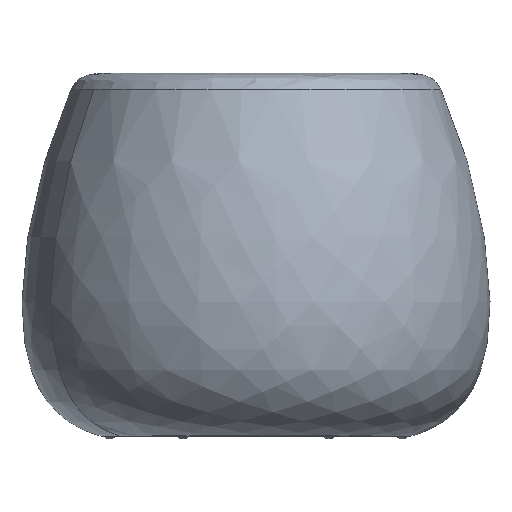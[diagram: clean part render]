
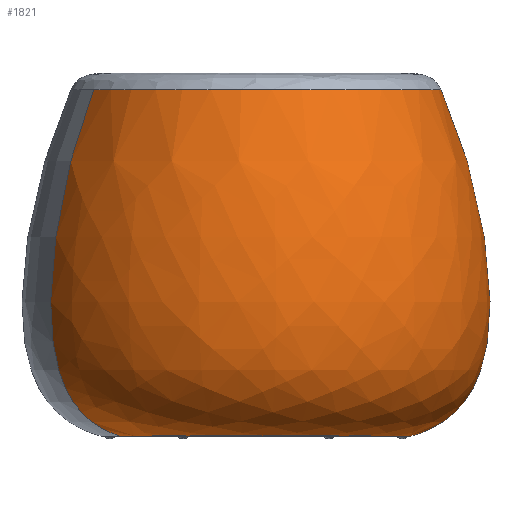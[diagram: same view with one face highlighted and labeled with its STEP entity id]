
A CAD part, left-side view. The second image highlights one B-rep face of the part: STEP entity #1821.
In plain terms, the highlighted face is a revolution surface.
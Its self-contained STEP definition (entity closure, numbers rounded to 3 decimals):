
#698=CARTESIAN_POINT('Vertex',(0.,-170.8,0.206)) ;
#701=CARTESIAN_POINT('Axis2P3D Location',(0.,0.,0.206)) ;
#705=CARTESIAN_POINT('Vertex',(-81.886,149.891,0.206)) ;
#1734=CARTESIAN_POINT('Control Point',(0.,-203.8,382.042)) ;
#1735=CARTESIAN_POINT('Control Point',(0.,-209.628,369.379)) ;
#1736=CARTESIAN_POINT('Control Point',(0.,-215.225,355.883)) ;
#1737=CARTESIAN_POINT('Control Point',(0.,-220.588,341.56)) ;
#1738=CARTESIAN_POINT('Control Point',(0.,-246.639,264.508)) ;
#1739=CARTESIAN_POINT('Control Point',(0.,-264.581,169.407)) ;
#1740=CARTESIAN_POINT('Control Point',(0.,-269.391,88.686)) ;
#1741=CARTESIAN_POINT('Control Point',(0.,-244.509,29.882)) ;
#1742=CARTESIAN_POINT('Control Point',(0.,-185.415,4.75)) ;
#1743=CARTESIAN_POINT('Control Point',(0.,-180.74,3.041)) ;
#1744=CARTESIAN_POINT('Control Point',(0.,-175.869,1.526)) ;
#1745=CARTESIAN_POINT('Control Point',(0.,-170.8,0.206)) ;
#1746=CARTESIAN_POINT('Vertex',(0.,-203.8,382.042)) ;
#1778=CARTESIAN_POINT('Control Point',(0.,203.8,382.042)) ;
#1779=CARTESIAN_POINT('Control Point',(0.,209.628,369.379)) ;
#1780=CARTESIAN_POINT('Control Point',(0.,215.225,355.883)) ;
#1781=CARTESIAN_POINT('Control Point',(0.,220.588,341.56)) ;
#1782=CARTESIAN_POINT('Control Point',(0.,246.639,264.508)) ;
#1783=CARTESIAN_POINT('Control Point',(0.,264.581,169.407)) ;
#1784=CARTESIAN_POINT('Control Point',(0.,269.391,88.686)) ;
#1785=CARTESIAN_POINT('Control Point',(0.,244.509,29.882)) ;
#1786=CARTESIAN_POINT('Control Point',(0.,185.415,4.75)) ;
#1787=CARTESIAN_POINT('Control Point',(0.,180.74,3.041)) ;
#1788=CARTESIAN_POINT('Control Point',(0.,175.869,1.526)) ;
#1789=CARTESIAN_POINT('Control Point',(0.,170.8,0.206)) ;
#1790=CARTESIAN_POINT('Axis1P Location',(0.,0.,217.5)) ;
#1794=CARTESIAN_POINT('Axis2P3D Location',(0.,0.,382.042)) ;
#1798=CARTESIAN_POINT('Vertex',(-97.707,178.851,382.042)) ;
#1802=CARTESIAN_POINT('Control Point',(-97.707,178.851,382.042)) ;
#1803=CARTESIAN_POINT('Control Point',(-100.501,183.966,369.379)) ;
#1804=CARTESIAN_POINT('Control Point',(-103.184,188.878,355.883)) ;
#1805=CARTESIAN_POINT('Control Point',(-105.755,193.584,341.56)) ;
#1806=CARTESIAN_POINT('Control Point',(-118.245,216.446,264.508)) ;
#1807=CARTESIAN_POINT('Control Point',(-126.847,232.192,169.407)) ;
#1808=CARTESIAN_POINT('Control Point',(-129.153,236.413,88.686)) ;
#1809=CARTESIAN_POINT('Control Point',(-117.224,214.577,29.882)) ;
#1810=CARTESIAN_POINT('Control Point',(-88.893,162.717,4.75)) ;
#1811=CARTESIAN_POINT('Control Point',(-86.652,158.615,3.041)) ;
#1812=CARTESIAN_POINT('Control Point',(-84.316,154.339,1.526)) ;
#1813=CARTESIAN_POINT('Control Point',(-81.886,149.891,0.206)) ;
#702=DIRECTION('Axis2P3D Direction',(0.,0.,1.)) ;
#1791=DIRECTION('Axis1P Direction',(0.,0.,1.)) ;
#1795=DIRECTION('Axis2P3D Direction',(0.,0.,1.)) ;
#703=AXIS2_PLACEMENT_3D('Circle Axis2P3D',#701,#702,$) ;
#1796=AXIS2_PLACEMENT_3D('Circle Axis2P3D',#1794,#1795,$) ;
#704=CIRCLE('generated circle',#703,170.8) ;
#1797=CIRCLE('generated circle',#1796,203.8) ;
#1793=SURFACE_OF_REVOLUTION('Surface of Revolution',#1777,#1792) ;
#1792=AXIS1_PLACEMENT('Revolution Surface Axis1P',#1790,#1791) ;
#707=EDGE_CURVE('',#706,#699,#704,.T.) ;
#1748=EDGE_CURVE('',#699,#1747,#1733,.F.) ;
#1800=EDGE_CURVE('',#1799,#1747,#1797,.T.) ;
#1814=EDGE_CURVE('',#706,#1799,#1801,.F.) ;
#1816=ORIENTED_EDGE('',*,*,#1748,.T.) ;
#1817=ORIENTED_EDGE('',*,*,#1800,.F.) ;
#1818=ORIENTED_EDGE('',*,*,#1814,.F.) ;
#1819=ORIENTED_EDGE('',*,*,#707,.T.) ;
#1815=EDGE_LOOP('',(#1816,#1817,#1818,#1819)) ;
#699=VERTEX_POINT('',#698) ;
#706=VERTEX_POINT('',#705) ;
#1747=VERTEX_POINT('',#1746) ;
#1799=VERTEX_POINT('',#1798) ;
#1821=ADVANCED_FACE('sgabello',(#1820),#1793,.F.) ;
#1733=B_SPLINE_CURVE_WITH_KNOTS('',5,(#1734,#1735,#1736,#1737,#1738,#1739,#1740,#1741,#1742,#1743,#1744,#1745),.UNSPECIFIED.,.F.,.U.,(6,3,3,6),(21.916,103.836,439.219,466.713),.UNSPECIFIED.) ;
#1777=B_SPLINE_CURVE_WITH_KNOTS('',5,(#1778,#1779,#1780,#1781,#1782,#1783,#1784,#1785,#1786,#1787,#1788,#1789),.UNSPECIFIED.,.F.,.U.,(6,3,3,6),(21.916,103.836,439.219,466.713),.UNSPECIFIED.) ;
#1801=B_SPLINE_CURVE_WITH_KNOTS('',5,(#1802,#1803,#1804,#1805,#1806,#1807,#1808,#1809,#1810,#1811,#1812,#1813),.UNSPECIFIED.,.F.,.U.,(6,3,3,6),(21.916,103.836,439.219,466.713),.UNSPECIFIED.) ;
#1820=FACE_OUTER_BOUND('',#1815,.T.) ;
